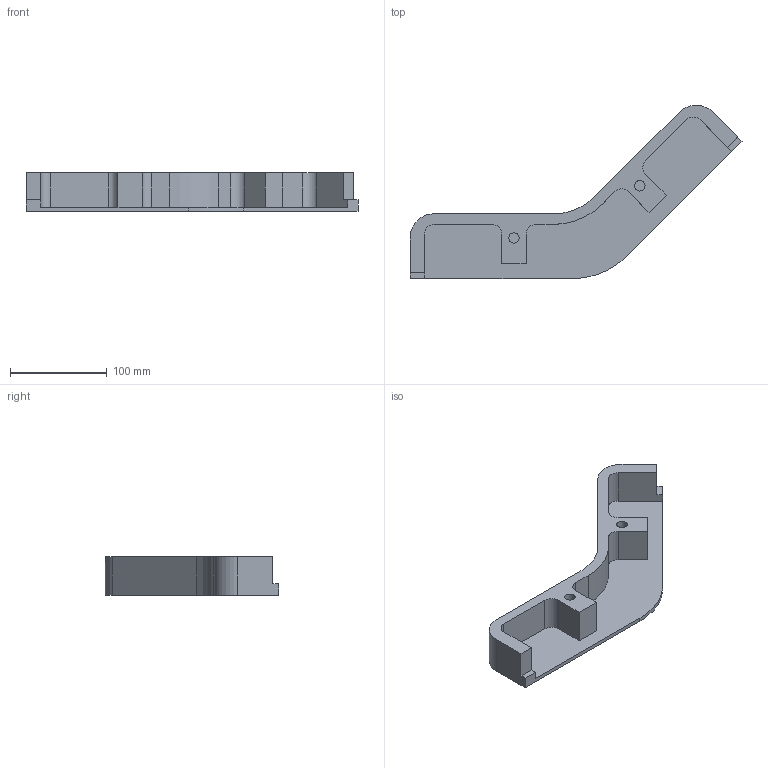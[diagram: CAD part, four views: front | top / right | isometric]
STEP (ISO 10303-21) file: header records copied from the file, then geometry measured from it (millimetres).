
FILE_DESCRIPTION (( 'STEP AP203' ), '1' );
FILE_NAME ('084.821.123.STEP', '2020-06-24T06:55:00', ( 'Localadmin' ), ( 'Microsoft' ), 'SwSTEP 2.0', 'SolidWorks 2018', '' );
FILE_SCHEMA (( 'CONFIG_CONTROL_DESIGN' ));
Length unit declared in the file: millimetre
Products named in the file (1): 084.821.123
Bounding box: 343.34 x 179.14 x 40 mm (x, y, z)
Volume: 356057.5 mm3; surface area: 91501.9 mm2
Topology: 1 solids, 1 shells, 42 faces, 114 edges, 76 vertices
Faces by surface type: plane 27, cylinder 15
Entity records: 1405 total; most frequent: CARTESIAN_POINT 233, DIRECTION 230, ORIENTED_EDGE 228, EDGE_CURVE 114, LINE 84, VECTOR 84, VERTEX_POINT 76, AXIS2_PLACEMENT_3D 73
